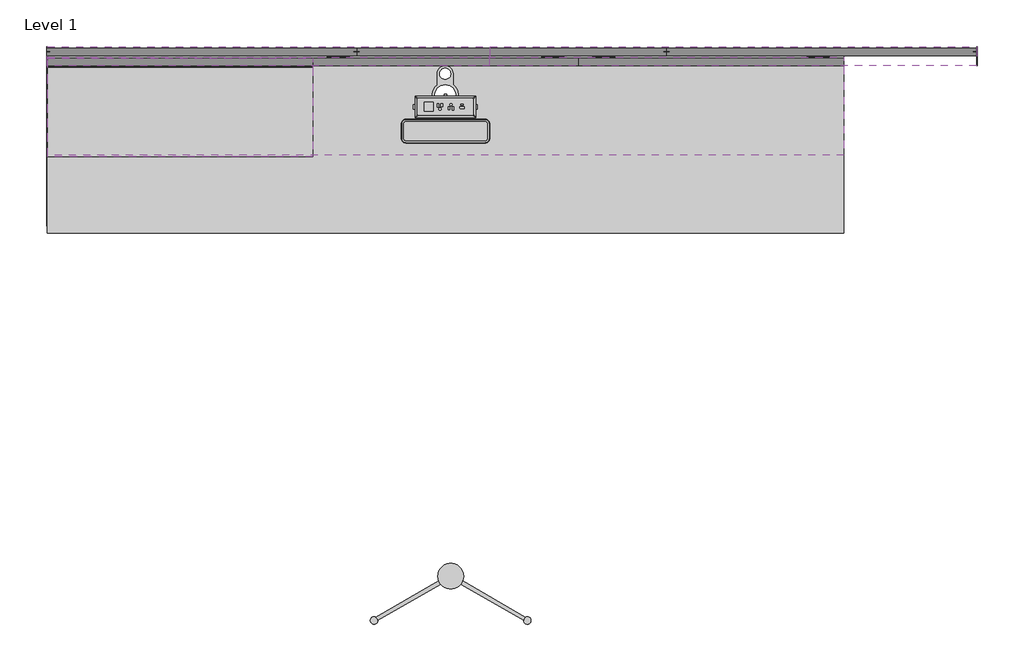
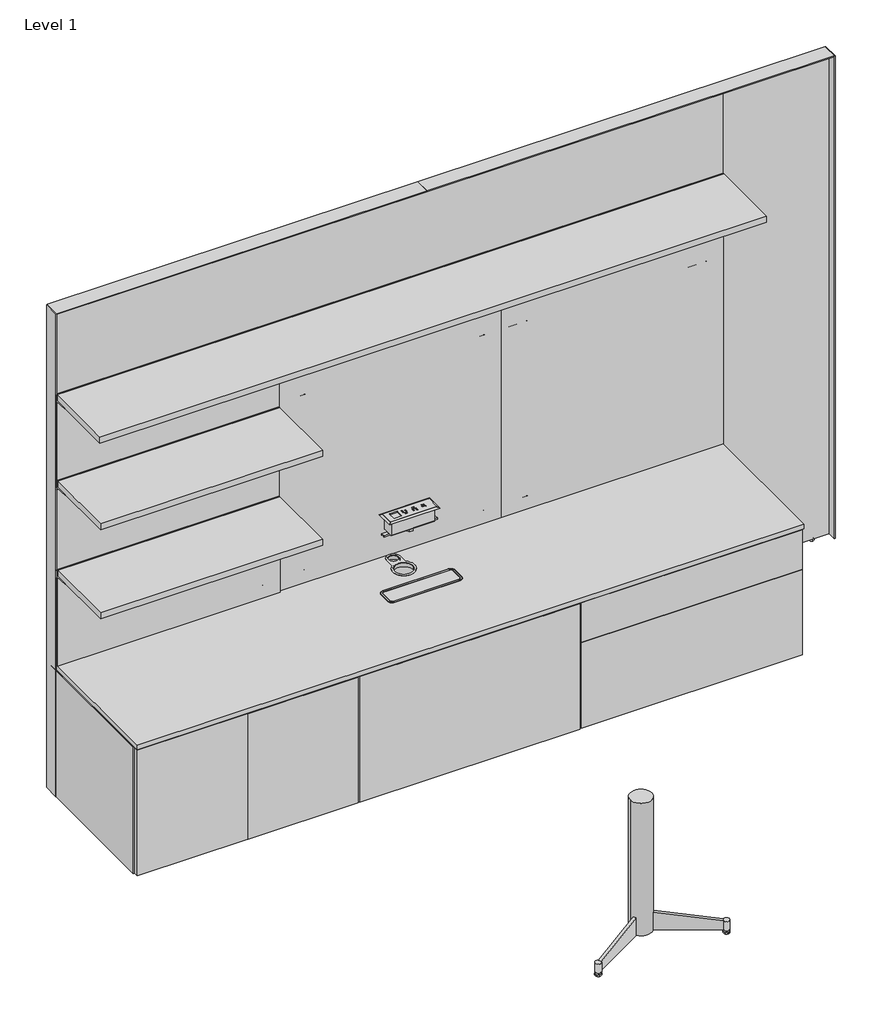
# One storey, incomplete: 19 furniture elements.
"""IFC4 building model written with IfcOpenShell, lengths in millimetres."""

from ifc_helpers import new_model, si_unit, origin, place, context, project, spatial, transform, mapped, element, save
from components import furniture_3fb710ad, furniture_b07222ba, furniture_38b03c54, furniture_95511676, furniture_cdfc1ff7, furniture_9a9e18b9, furniture_72f0afe8, furniture_a181dc65, furniture_ff0d8c2a, furniture_eaf7f4b3, furniture_8b11afc4, furniture_67171f7c, in_surface_33791ff7, mp_base_71be33a4

model = new_model("IFC4")

# Units and contexts
model_context = context("Model", 3, world=origin())
ifc_project = project(units=[si_unit("LENGTHUNIT", "METRE", prefix="MILLI")], contexts=[model_context])

# Site, building, storey
site = spatial("IfcSite", under=ifc_project)
building = spatial("IfcBuilding", under=site)
storey = spatial("IfcBuildingStorey", under=building, Name="Level 1", Elevation=0.0)

# Furniture
placement = place(None, origin())
furniture_shape = furniture_3fb710ad(model_context)
element("IfcFurniture", 1, ObjectType="Geiger_GeigerOneCasegoods_KneespaceCoverPanel : TFL 35.75Wx 0.75Dx 21.75H", at=placement, inside=storey, context=model_context, shape_type="MappedRepresentation", body=[
    mapped(furniture_shape, transform((-613.9957114, 606.1440509, 15.6972), x_axis=(1.0, 0.0, 0.0), y_axis=(0.0, 1.0, 0.0), z_axis=(0.0, 0.0, 1.0))),
])
furniture_2_shape = furniture_b07222ba(model_context)
element("IfcFurniture", 2, ObjectType="Geiger_GeigerOneCasegoods_OverheadStorageSingleShelfFullBackPanel : TFL 108Wx 13.375Dx 14.875H", at=placement, inside=storey, context=model_context, shape_type="MappedRepresentation", body=[
    mapped(furniture_2_shape, transform((-1527.4087332, 1199.5132735, 1728.724), x_axis=(1.0, 0.0, 0.0), y_axis=(0.0, 1.0, 0.0), z_axis=(0.0, 0.0, 1.0))),
])
furniture_3_shape = furniture_38b03c54(model_context)
element("IfcFurniture", 3, ObjectType="Geiger_GeigerOneCasegoods_OverheadStorageSingleShelfFullBackPanel : TFL 36Wx 13.375Dx 14.875H", at=placement, inside=storey, context=model_context, shape_type="MappedRepresentation", body=[
    mapped(furniture_3_shape, transform((-1527.4087332, 1195.3674757, 1355.3834124), x_axis=(1.0, 0.0, 0.0), y_axis=(0.0, 1.0, 0.0), z_axis=(0.0, 0.0, 1.0))),
])
element("IfcFurniture", 4, ObjectType="Geiger_GeigerOneCasegoods_OverheadStorageSingleShelfFullBackPanel : TFL 36Wx 13.375Dx 14.875H", at=placement, inside=storey, context=model_context, shape_type="MappedRepresentation", body=[
    mapped(furniture_3_shape, transform((-1527.4087332, 1195.3674757, 967.5782), x_axis=(1.0, 0.0, 0.0), y_axis=(0.0, 1.0, 0.0), z_axis=(0.0, 0.0, 1.0))),
])
furniture_4_shape = furniture_95511676(model_context)
element("IfcFurniture", 5, ObjectType="Geiger_GeigerOneCasegoods_WallTileAcceptsTileAboveFabric : Fabric 36Wx 1.25Dx 45H", at=placement, inside=storey, context=model_context, shape_type="MappedRepresentation", body=[
    mapped(furniture_4_shape, transform((300.9790174, 1195.3604821, 585.1906), x_axis=(1.0, 0.0, 0.0), y_axis=(0.0, 1.0, 0.0), z_axis=(0.0, 0.0, 1.0))),
])
element("IfcFurniture", 6, ObjectType="Geiger_GeigerOneCasegoods_WallTileAcceptsTileAboveFabric : Fabric 36Wx 1.25Dx 45H", at=placement, inside=storey, context=model_context, shape_type="MappedRepresentation", body=[
    mapped(furniture_4_shape, transform((-613.4209826, 1195.3604821, 585.1906), x_axis=(1.0, 0.0, 0.0), y_axis=(0.0, 1.0, 0.0), z_axis=(0.0, 0.0, 1.0))),
])
furniture_5_shape = furniture_cdfc1ff7(model_context)
element("IfcFurniture", 7, ObjectType="Geiger_GeigerOneCasegoods_WallTileAcceptsTileAboveFabric : Fabric 36Wx 1.25Dx 15H", at=placement, inside=storey, context=model_context, shape_type="MappedRepresentation", body=[
    mapped(furniture_5_shape, transform((-1527.8826637, 1186.3562475, 585.1906), x_axis=(1.0, 0.0, 0.0), y_axis=(0.0, 1.0, 0.0), z_axis=(0.0, 0.0, 1.0))),
])
furniture_6_shape = furniture_9a9e18b9(model_context)
element("IfcFurniture", 8, ObjectType="Geiger_GeigerOneCasegoods_WallEndTrim : SingleSided 2.625Wx 0.125Dx 82.625H", at=placement, inside=storey, context=model_context, shape_type="MappedRepresentation", body=[
    mapped(furniture_6_shape, transform((1672.7987925, 1196.2971821, 12.7), x_axis=(1.0, 0.0, 0.0), y_axis=(0.0, 1.0, 0.0), z_axis=(0.0, 0.0, 1.0))),
])
element("IfcFurniture", 9, ObjectType="Geiger_GeigerOneCasegoods_WallEndTrim : SingleSided 2.625Wx 0.125Dx 82.625H", at=placement, inside=storey, context=model_context, shape_type="MappedRepresentation", body=[
    mapped(furniture_6_shape, transform((-1530.7762075, 1196.2971821, 12.7), x_axis=(1.0, 0.0, 0.0), y_axis=(0.0, 1.0, 0.0), z_axis=(0.0, 0.0, 1.0))),
])
furniture_7_shape = furniture_72f0afe8(model_context)
element("IfcFurniture", 10, ObjectType="Geiger_GeigerOneCasegoods_WallTopTrimSingleSidedWall : 60Wx2.625Dx0.125H", at=placement, inside=storey, context=model_context, shape_type="MappedRepresentation", body=[
    mapped(furniture_7_shape, transform((-1527.6012075, 1196.6346821, 2108.708), x_axis=(1.0, 0.0, 0.0), y_axis=(0.0, 1.0, 0.0), z_axis=(0.0, 0.0, 1.0))),
])
furniture_8_shape = furniture_a181dc65(model_context)
element("IfcFurniture", 11, ObjectType="Geiger_GeigerOneCasegoods_WallTopTrimSingleSidedWall : 66Wx2.625Dx0.125H", at=placement, inside=storey, context=model_context, shape_type="MappedRepresentation", body=[
    mapped(furniture_8_shape, transform((-3.6012075, 1196.6346821, 2108.708), x_axis=(1.0, 0.0, 0.0), y_axis=(0.0, 1.0, 0.0), z_axis=(0.0, 0.0, 1.0))),
])
furniture_9_shape = furniture_ff0d8c2a(model_context)
element("IfcFurniture", 12, ObjectType="Geiger_GeigerOneCasegoods_CredenzaTopLowHeightWithLegandShro : Veneer 108Wx 24Dx 0.75H", at=placement, inside=storey, context=model_context, shape_type="MappedRepresentation", body=[
    mapped(furniture_9_shape, transform((-1527.8826637, 1196.6940509, 565.404), x_axis=(1.0, 0.0, 0.0), y_axis=(0.0, 1.0, 0.0), z_axis=(0.0, 0.0, 1.0))),
])
furniture_10_shape = furniture_eaf7f4b3(model_context)
element("IfcFurniture", 13, ObjectType="Geiger_GeigerOneCasegoods_LowStorageHingedDoors : Vertical Veneer 36Wx24Dx21.75H", at=placement, inside=storey, context=model_context, shape_type="MappedRepresentation", body=[
    mapped(furniture_10_shape, transform((-1530.0755956, 1197.8317229, 0.0), x_axis=(1.0, 0.0, 0.0), y_axis=(0.0, 1.0, 0.0), z_axis=(0.0, 0.0, 1.0))),
])
furniture_11_shape = furniture_8b11afc4(model_context)
element("IfcFurniture", 14, ObjectType="Geiger_GeigerOneCasegoods_LowStorage1Box1File : Vertical Veneer 36Wx24Dx21.75H", at=placement, inside=storey, context=model_context, shape_type="MappedRepresentation", body=[
    mapped(furniture_11_shape, transform((299.2314819, 1201.4209325, 0.0), x_axis=(1.0, 0.0, 0.0), y_axis=(0.0, 1.0, 0.0), z_axis=(0.0, 0.0, 1.0))),
])
furniture_12_shape = furniture_67171f7c(model_context)
element("IfcFurniture", 15, ObjectType="Geiger_GeigerOneCasegoods_WallFrameStandardApplication : 42Wx1Dx82.5H", at=placement, inside=storey, context=model_context, shape_type="MappedRepresentation", body=[
    mapped(furniture_12_shape, transform((604.2721123, 1224.5817229, 0.0), x_axis=(1.0, 0.0, 0.0), y_axis=(0.0, 1.0, 0.0), z_axis=(0.0, 0.0, 1.0))),
])
element("IfcFurniture", 16, ObjectType="Geiger_GeigerOneCasegoods_WallFrameStandardApplication : 42Wx1Dx82.5H", at=placement, inside=storey, context=model_context, shape_type="MappedRepresentation", body=[
    mapped(furniture_12_shape, transform((-1529.3278877, 1224.5817229, 0.0), x_axis=(1.0, 0.0, 0.0), y_axis=(0.0, 1.0, 0.0), z_axis=(0.0, 0.0, 1.0))),
])
element("IfcFurniture", 17, ObjectType="Geiger_GeigerOneCasegoods_WallFrameStandardApplication : 42Wx1Dx82.5H", at=placement, inside=storey, context=model_context, shape_type="MappedRepresentation", body=[
    mapped(furniture_12_shape, transform((-462.5278877, 1224.5817229, 0.0), x_axis=(1.0, 0.0, 0.0), y_axis=(0.0, 1.0, 0.0), z_axis=(0.0, 0.0, 1.0))),
])
in_surface_shape = in_surface_33791ff7(model_context)
element("IfcFurniture", 18, ObjectType="Geiger_GeigerOneCasegoods_PowerComponent2PowerOutlets1USBA1USBC : In Surface", at=placement, inside=storey, context=model_context, shape_type="MappedRepresentation", body=[
    mapped(in_surface_shape, transform((-156.7957114, 1022.021565, 857.8140615), x_axis=(1.0, 0.0, 0.0), y_axis=(0.0, 1.0, 0.0), z_axis=(0.0, 0.0, 1.0))),
])
mp_base_shape = mp_base_71be33a4(model_context)
element("IfcFurniture", 19, ObjectType="Geiger_GeigerOneCasegoods_LegSupport : MP Base", at=placement, inside=storey, context=model_context, shape_type="MappedRepresentation", body=[
    mapped(mp_base_shape, transform((-138.6024704, -596.1728123, 3.0120774), x_axis=(1.0, 0.0, 0.0), y_axis=(0.0, 1.0, 0.0), z_axis=(0.0, 0.0, 1.0))),
])

save(model, "model.ifc")
